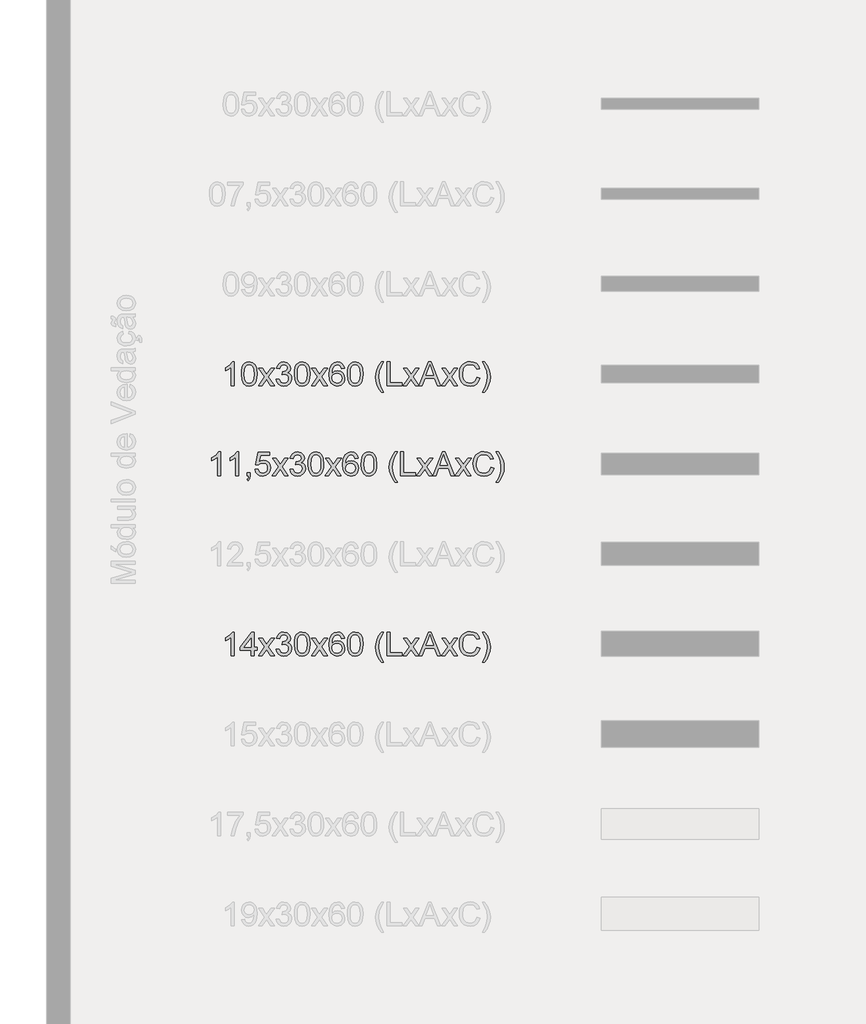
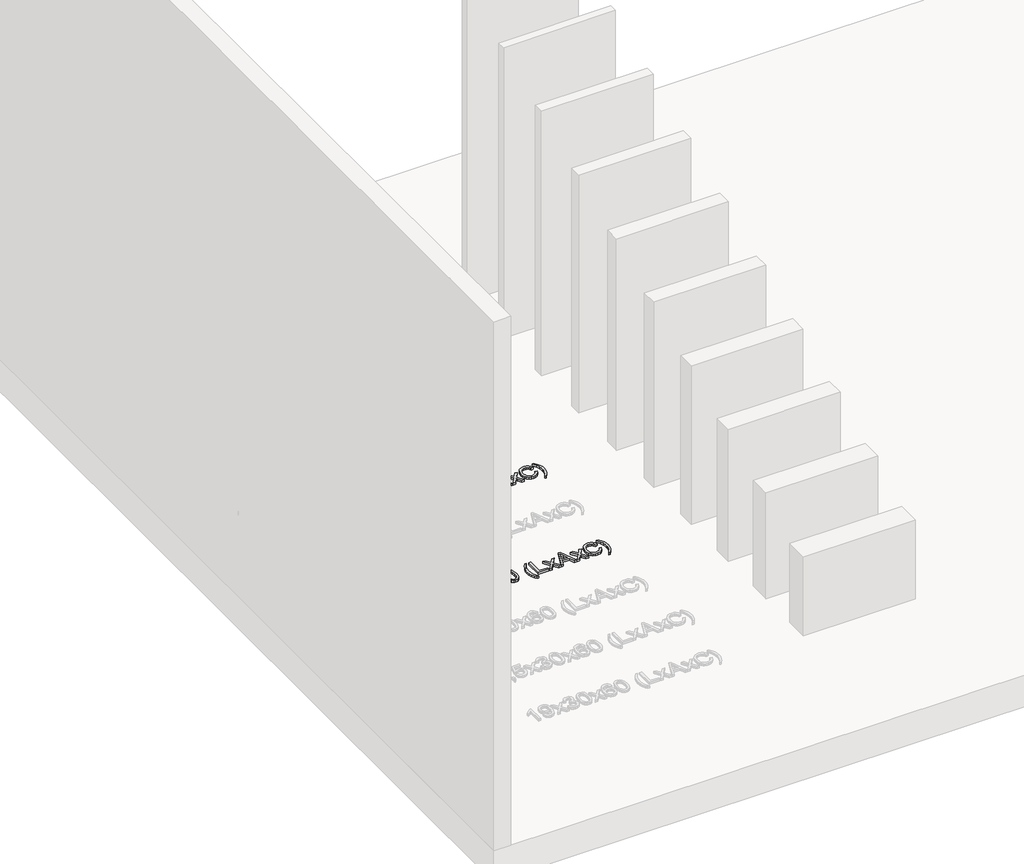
# One storey, part 14 of 26: 3 proxies.
"""IFC4 building model written with IfcOpenShell, lengths in millimetres."""

from ifc_helpers import new_model, si_unit, origin, origin_with_axes, place, context, project, spatial, polyline, outline, extrude, element, save

model = new_model("IFC4")

# Units and contexts
model_context = context("Model", 3, world=origin())
ifc_project = project(units=[si_unit("LENGTHUNIT", "METRE", prefix="MILLI")], contexts=[model_context])

# Site, building, storey
site = spatial("IfcSite", under=ifc_project)
building = spatial("IfcBuilding", under=site)
storey = spatial("IfcBuildingStorey", under=building, Name="Catálogo Celucon", Elevation=0.0)

# Proxies
placement = place(None, origin())
element("IfcBuildingElementProxy", 1, Name="Legenda Tabela de Módulos", ObjectType="Legenda Tabela de Módulos", at=placement, inside=storey, context=model_context, shape_type="SweptSolid", body=[
    extrude(outline(polyline([(8135.1639541, -1158.2429544), (8116.3283959, -1158.2429544), (8116.3283959, -1040.8150215), (8098.4861191, -1053.5253444), (8078.6572796, -1063.035094), (8078.6572796, -1045.2296054), (8106.2668233, -1027.6080579), (8123.0238482, -1007.5584891), (8135.1639541, -1007.5584891), (8135.1639541, -1158.2429544)])), origin_with_axes(), (0.0, 0.0, 1.0), 20.0),
    extrude(outline(polyline([(8179.8984047, -1084.1147323), (8181.2825607, -1059.995469), (8185.4350287, -1040.7598392), (8192.314422, -1026.1135373), (8201.8793539, -1015.7622576), (8214.1988022, -1009.6094313), (8229.3417448, -1007.5584891), (8251.3410881, -1012.4145315), (8266.5346145, -1026.4124414), (8275.3637824, -1048.7060903), (8278.785085, -1084.1147323), (8277.4147245, -1108.0960399), (8273.3036432, -1127.2856845), (8266.4656367, -1141.945782), (8256.9145004, -1152.3384483), (8244.5674609, -1158.5326614), (8229.3417448, -1160.5973991), (8209.7704227, -1157.0105497), (8194.9079901, -1146.2500013), (8183.650801, -1120.7649761), (8179.8984047, -1084.1147323)]), holes=[polyline([(8198.7339628, -1084.0779441), (8200.9412548, -1113.7062403), (8207.5631307, -1130.8541398), (8217.4223682, -1139.0349157), (8229.3417448, -1141.761841), (8241.2611215, -1139.0257186), (8251.1203589, -1130.8173516), (8257.7422349, -1113.6602551), (8259.9495268, -1084.0779441), (8257.8158112, -1055.1164341), (8251.4146645, -1037.8351773), (8241.5738212, -1029.2543298), (8229.1210156, -1026.3940473), (8217.3303977, -1028.914039), (8207.8574363, -1036.474014), (8201.0148312, -1054.8313255), (8198.7339628, -1084.0779441)])]), origin_with_axes(), (0.0, 0.0, 1.0), 20.0),
    extrude(outline(polyline([(8288.2028641, -1158.2429544), (8328.4491543, -1102.6191967), (8290.5573088, -1047.5840502), (8313.2188397, -1047.5840502), (8331.5025749, -1074.0715539), (8340.0374372, -1086.5795417), (8347.4318653, -1076.3524222), (8368.2539862, -1047.5840502), (8390.9155171, -1047.5840502), (8351.1106852, -1102.6191967), (8389.4439891, -1158.2429544), (8366.7824582, -1158.2429544), (8343.7162571, -1124.802481), (8339.4856142, -1118.6956399), (8310.864395, -1158.2429544), (8288.2028641, -1158.2429544)])), origin_with_axes(), (0.0, 0.0, 1.0), 20.0),
    extrude(outline(polyline([(8401.216213, -1118.2173933), (8420.0517711, -1115.8629485), (8424.2686185, -1127.6995517), (8430.4444375, -1135.6917881), (8438.8827308, -1140.2443278), (8449.8870009, -1141.761841), (8462.799659, -1139.6741107), (8472.769261, -1133.4109197), (8479.1428166, -1124.066717), (8481.2673351, -1112.7359516), (8479.1612107, -1101.9800017), (8472.8428374, -1093.2565999), (8463.2779056, -1087.4762541), (8451.4321053, -1085.5494721), (8438.2251417, -1087.6096113), (8440.3220691, -1068.7740531), (8443.3387014, -1068.9947823), (8464.7126453, -1063.586917), (8471.8311619, -1056.7259178), (8474.2040008, -1046.9586508), (8472.4841525, -1038.8238602), (8467.3246075, -1032.2249769), (8459.4519328, -1027.8517797), (8449.5926953, -1026.3940473), (8439.7150638, -1027.8655753), (8431.640054, -1032.2801592), (8425.744745, -1039.6377991), (8422.4062159, -1049.938495), (8403.5706577, -1047.5840502), (8409.1164788, -1030.6706755), (8418.9849133, -1018.043126), (8432.4861826, -1010.1796484), (8448.9305077, -1007.5584891), (8471.6472209, -1012.7272312), (8487.5397231, -1026.8538998), (8493.039559, -1045.8550048), (8487.8156346, -1063.219035), (8472.3645908, -1075.6902346), (8484.1552088, -1080.4543065), (8492.8924062, -1088.5661045), (8498.3002715, -1099.5841702), (8500.1028933, -1113.0670454), (8496.4976497, -1131.4243569), (8485.6819191, -1146.7650361), (8469.3571555, -1157.1393084), (8449.2248133, -1160.5973991), (8431.0146546, -1157.6451461), (8416.1890102, -1148.7883871), (8405.8791173, -1135.2411326), (8401.216213, -1118.2173933)])), origin_with_axes(), (0.0, 0.0, 1.0), 20.0),
    extrude(outline(polyline([(8516.5840067, -1084.1147323), (8517.9681627, -1059.995469), (8522.1206307, -1040.7598392), (8529.000024, -1026.1135373), (8538.5649559, -1015.7622576), (8550.8844042, -1009.6094313), (8566.0273468, -1007.5584891), (8588.0266901, -1012.4145315), (8603.2202165, -1026.4124414), (8612.0493844, -1048.7060903), (8615.470687, -1084.1147323), (8614.1003265, -1108.0960399), (8609.9892452, -1127.2856845), (8603.1512386, -1141.945782), (8593.6001023, -1152.3384483), (8581.2530629, -1158.5326614), (8566.0273468, -1160.5973991), (8546.4560247, -1157.0105497), (8531.5935921, -1146.2500013), (8520.336403, -1120.7649761), (8516.5840067, -1084.1147323)]), holes=[polyline([(8535.4195648, -1084.0779441), (8537.6268568, -1113.7062403), (8544.2487327, -1130.8541398), (8554.1079702, -1139.0349157), (8566.0273468, -1141.761841), (8577.9467235, -1139.0257186), (8587.8059609, -1130.8173516), (8594.4278368, -1113.6602551), (8596.6351288, -1084.0779441), (8594.5014132, -1055.1164341), (8588.1002665, -1037.8351773), (8578.2594231, -1029.2543298), (8565.8066176, -1026.3940473), (8554.0159997, -1028.914039), (8544.5430383, -1036.474014), (8537.7004332, -1054.8313255), (8535.4195648, -1084.0779441)])]), origin_with_axes(), (0.0, 0.0, 1.0), 20.0),
    extrude(outline(polyline([(8624.888466, -1158.2429544), (8665.1347563, -1102.6191967), (8627.2429108, -1047.5840502), (8649.9044417, -1047.5840502), (8668.1881769, -1074.0715539), (8676.7230392, -1086.5795417), (8684.1174673, -1076.3524222), (8704.9395882, -1047.5840502), (8727.6011191, -1047.5840502), (8687.7962872, -1102.6191967), (8726.1295911, -1158.2429544), (8703.4680602, -1158.2429544), (8680.4018591, -1124.802481), (8676.1712162, -1118.6956399), (8647.5499969, -1158.2429544), (8624.888466, -1158.2429544)])), origin_with_axes(), (0.0, 0.0, 1.0), 20.0),
    extrude(outline(polyline([(8834.4340505, -1047.5840502), (8815.5984923, -1049.938495), (8808.4615816, -1034.2299338), (8799.9175223, -1028.3530189), (8789.5892353, -1026.3940473), (8772.5930871, -1030.955784), (8759.7356114, -1048.0806909), (8755.8314637, -1062.1107905), (8754.3829283, -1081.649923), (8770.9928004, -1066.6219435), (8791.5757981, -1061.7107188), (8808.9766164, -1065.067642), (8823.5815316, -1075.1384117), (8833.4867544, -1090.5250761), (8836.7884953, -1109.8296838), (8835.2341938, -1123.3171574), (8830.5712895, -1135.8205468), (8823.1860585, -1146.4247453), (8813.4647768, -1154.2146465), (8801.8489028, -1159.001711), (8788.7798949, -1160.5973991), (8767.4105495, -1156.3667562), (8750.3914087, -1143.6748274), (8739.2583798, -1121.2708139), (8735.5473702, -1087.9039169), (8739.6676485, -1050.3891504), (8752.0284836, -1024.7385783), (8768.9050701, -1011.8535114), (8790.7664577, -1007.5584891), (8807.2935563, -1010.2164366), (8820.5281111, -1018.1902788), (8829.7987374, -1030.8546165), (8834.4340505, -1047.5840502)]), holes=[polyline([(8754.3829283, -1109.5353782), (8758.74233, -1125.8509447), (8770.3306128, -1137.6967449), (8787.3083669, -1141.761841), (8799.7381798, -1139.6557166), (8809.5100453, -1133.3373433), (8815.8422142, -1123.4045294), (8817.9529371, -1110.4550832), (8815.8698053, -1098.0252703), (8809.6204099, -1088.5477104), (8799.6829975, -1082.5466353), (8786.5358147, -1080.546277), (8774.1243959, -1082.5466353), (8763.7455251, -1088.5477104), (8756.7235775, -1097.795344), (8754.3829283, -1109.5353782)])]), origin_with_axes(), (0.0, 0.0, 1.0), 20.0),
    extrude(outline(polyline([(8853.2696086, -1084.1147323), (8854.6537646, -1059.995469), (8858.8062327, -1040.7598392), (8865.685626, -1026.1135373), (8875.2505579, -1015.7622576), (8887.5700062, -1009.6094313), (8902.7129488, -1007.5584891), (8924.7122921, -1012.4145315), (8939.9058185, -1026.4124414), (8948.7349864, -1048.7060903), (8952.1562889, -1084.1147323), (8950.7859285, -1108.0960399), (8946.6748472, -1127.2856845), (8939.8368406, -1141.945782), (8930.2857043, -1152.3384483), (8917.9386649, -1158.5326614), (8902.7129488, -1160.5973991), (8883.1416267, -1157.0105497), (8868.279194, -1146.2500013), (8857.022005, -1120.7649761), (8853.2696086, -1084.1147323)]), holes=[polyline([(8872.1051668, -1084.0779441), (8874.3124588, -1113.7062403), (8880.9343347, -1130.8541398), (8890.7935722, -1139.0349157), (8902.7129488, -1141.761841), (8914.6323254, -1139.0257186), (8924.4915629, -1130.8173516), (8931.1134388, -1113.6602551), (8933.3207308, -1084.0779441), (8931.1870152, -1055.1164341), (8924.7858685, -1037.8351773), (8914.9450251, -1029.2543298), (8902.4922196, -1026.3940473), (8890.7016017, -1028.914039), (8881.2286403, -1036.474014), (8874.3860352, -1054.8313255), (8872.1051668, -1084.0779441)])]), origin_with_axes(), (0.0, 0.0, 1.0), 20.0),
    extrude(outline(polyline([(9069.8785274, -1200.6229602), (9055.2828092, -1180.1411301), (9043.1335064, -1156.4403326), (9034.9389349, -1130.6701988), (9032.2074111, -1103.9803601), (9034.2491562, -1080.5738681), (9040.3743914, -1058.1790517), (9052.5328913, -1032.8135881), (9069.8785274, -1007.5584891), (9084.005196, -1007.5584891), (9066.3836484, -1037.393719), (9055.788647, -1066.3092438), (9051.0429692, -1104.0907247), (9053.1031084, -1128.2375791), (9059.2835259, -1152.3752365), (9069.5842218, -1176.5036969), (9084.005196, -1200.6229602), (9069.8785274, -1200.6229602)])), origin_with_axes(), (0.0, 0.0, 1.0), 20.0),
    extrude(outline(polyline([(9105.1951989, -1158.2429544), (9105.1951989, -1007.5584891), (9124.0307571, -1007.5584891), (9124.0307571, -1139.4073962), (9199.3729897, -1139.4073962), (9199.3729897, -1158.2429544), (9105.1951989, -1158.2429544)])), origin_with_axes(), (0.0, 0.0, 1.0), 20.0),
    extrude(outline(polyline([(9308.9650361, -1158.2429544), (9369.1137423, -1007.5584891), (9385.1533973, -1007.5584891), (9445.3021035, -1158.2429544), (9425.3996875, -1158.2429544), (9408.146022, -1111.154059), (9346.0843294, -1111.154059), (9328.867452, -1158.2429544), (9308.9650361, -1158.2429544)]), holes=[polyline([(9353.0005109, -1092.3185008), (9401.2666287, -1092.3185008), (9387.691783, -1055.2727839), (9377.1335698, -1026.3940473), (9367.7525789, -1052.0354224), (9353.0005109, -1092.3185008)])]), origin_with_axes(), (0.0, 0.0, 1.0), 20.0),
    extrude(outline(polyline([(9206.436324, -1158.2429544), (9246.6826143, -1102.6191967), (9208.7907688, -1047.5840502), (9231.4522997, -1047.5840502), (9249.7360348, -1074.0715539), (9258.2708971, -1086.5795417), (9265.6653252, -1076.3524222), (9286.4874462, -1047.5840502), (9309.1489771, -1047.5840502), (9269.3441452, -1102.6191967), (9307.6774491, -1158.2429544), (9285.0159182, -1158.2429544), (9261.9497171, -1124.802481), (9257.7190741, -1118.6956399), (9229.0978549, -1158.2429544), (9206.436324, -1158.2429544)])), origin_with_axes(), (0.0, 0.0, 1.0), 20.0),
    extrude(outline(polyline([(9451.29858, -1158.2429544), (9491.5448703, -1102.6191967), (9453.6530248, -1047.5840502), (9476.3145557, -1047.5840502), (9494.5982908, -1074.0715539), (9503.1331531, -1086.5795417), (9510.5275812, -1076.3524222), (9531.3497022, -1047.5840502), (9554.0112331, -1047.5840502), (9514.2064012, -1102.6191967), (9552.5397051, -1158.2429544), (9529.8781742, -1158.2429544), (9506.8119731, -1124.802481), (9502.5813301, -1118.6956399), (9473.9601109, -1158.2429544), (9451.29858, -1158.2429544)])), origin_with_axes(), (0.0, 0.0, 1.0), 20.0),
    extrude(outline(polyline([(9677.3252778, -1104.6793359), (9696.160836, -1109.5353782), (9687.4696239, -1131.4841377), (9673.8303989, -1147.5191942), (9655.9145457, -1157.3278479), (9634.393449, -1160.5973991), (9612.545857, -1158.1233927), (9595.1956224, -1150.7013735), (9581.8966883, -1138.5888588), (9572.2029977, -1122.043366), (9566.2846961, -1102.5916055), (9564.3119289, -1081.7602876), (9566.5422135, -1059.7885354), (9573.2330673, -1040.8150215), (9584.0350024, -1025.4421526), (9598.5985309, -1014.2723356), (9615.8705905, -1007.4711172), (9634.7981192, -1005.2040444), (9655.4500947, -1008.1379033), (9672.5244178, -1016.93948), (9685.4876596, -1031.0661486), (9693.8063912, -1049.9752832), (9674.9708331, -1054.4634435), (9668.4409277, -1040.7276495), (9659.5197893, -1031.3052719), (9648.0970533, -1025.8560199), (9634.0623552, -1024.0396025), (9617.8847445, -1026.0537564), (9604.5950074, -1032.0962182), (9594.5104422, -1041.5323914), (9587.9483471, -1053.7276795), (9583.1474871, -1081.7234994), (9584.5684313, -1099.1243177), (9588.8312639, -1114.1706913), (9596.0969333, -1126.2878046), (9606.5263879, -1134.9008418), (9619.0297772, -1140.0465912), (9632.5172508, -1141.761841), (9648.2396076, -1139.4257903), (9661.3408051, -1132.4176383), (9671.2322323, -1120.8109614), (9677.3252778, -1104.6793359)])), origin_with_axes(), (0.0, 0.0, 1.0), 20.0),
    extrude(outline(polyline([(9724.4141732, -1200.6229602), (9710.2875046, -1200.6229602), (9724.7084788, -1176.5036969), (9735.0091747, -1152.3752365), (9741.1895922, -1128.2375791), (9743.2497314, -1104.0907247), (9738.5040536, -1066.6403376), (9728.0194168, -1037.6880245), (9710.2875046, -1007.5584891), (9724.4141732, -1007.5584891), (9741.7598093, -1032.8135881), (9753.9183092, -1058.1790517), (9760.0435445, -1080.5738681), (9762.0852895, -1103.9803601), (9759.3399701, -1130.6701988), (9751.104012, -1156.4403326), (9738.9409135, -1180.1411301), (9724.4141732, -1200.6229602)])), origin_with_axes(), (0.0, 0.0, 1.0), 20.0),
])
element("IfcBuildingElementProxy", 2, Name="Legenda Tabela de Módulos", ObjectType="Legenda Tabela de Módulos", at=placement, inside=storey, context=model_context, shape_type="SweptSolid", body=[
    extrude(outline(polyline([(8048.0494976, -1729.6715258), (8029.2139394, -1729.6715258), (8029.2139394, -1612.2435929), (8011.3716627, -1624.9539159), (7991.5428231, -1634.4636654), (7991.5428231, -1616.6581769), (8019.1523669, -1599.0366293), (8035.9093918, -1578.9870606), (8048.0494976, -1578.9870606), (8048.0494976, -1729.6715258)])), origin_with_axes(), (0.0, 0.0, 1.0), 20.0),
    extrude(outline(polyline([(8163.4172913, -1729.6715258), (8144.5817331, -1729.6715258), (8144.5817331, -1612.2435929), (8126.7394564, -1624.9539159), (8106.9106168, -1634.4636654), (8106.9106168, -1616.6581769), (8134.5201606, -1599.0366293), (8151.2771854, -1578.9870606), (8163.4172913, -1578.9870606), (8163.4172913, -1729.6715258)])), origin_with_axes(), (0.0, 0.0, 1.0), 20.0),
    extrude(outline(polyline([(8217.569521, -1729.6715258), (8217.569521, -1710.8359676), (8236.4050791, -1710.8359676), (8236.4050791, -1729.6715258), (8233.0205648, -1748.9301482), (8222.2784105, -1760.2793078), (8217.569521, -1753.2159735), (8224.4857025, -1745.0857814), (8226.9505119, -1729.6715258), (8217.569521, -1729.6715258)])), origin_with_axes(), (0.0, 0.0, 1.0), 20.0),
    extrude(outline(polyline([(8267.0128611, -1689.6459647), (8285.8484193, -1687.29152), (8289.30651, -1698.5992928), (8295.3397748, -1706.6972952), (8303.9206223, -1711.5671331), (8315.0214615, -1713.1904124), (8328.5227307, -1710.9325367), (8338.6394856, -1704.1589094), (8344.9578589, -1693.6512799), (8347.0639833, -1680.1913974), (8345.0912161, -1667.5178627), (8339.1729145, -1657.8241721), (8329.2630932, -1651.6713458), (8315.3157671, -1649.6204036), (8298.7794714, -1652.8945534), (8288.2028641, -1661.3926275), (8269.3673059, -1659.0381827), (8285.8484193, -1581.3415053), (8358.8362071, -1581.3415053), (8358.8362071, -1600.1770635), (8301.0787339, -1600.1770635), (8293.0221182, -1641.6741525), (8306.4774022, -1633.5071723), (8320.5764796, -1630.7848455), (8338.1750346, -1634.1601628), (8352.7845483, -1644.2861147), (8362.6207932, -1659.7187644), (8365.8995414, -1679.0141751), (8362.9472884, -1697.8497332), (8354.0905294, -1713.9629646), (8337.1311694, -1727.5102191), (8314.9478851, -1732.0259706), (8296.4480193, -1729.1243013), (8281.7097468, -1720.4192936), (8271.6067875, -1706.9226229), (8267.0128611, -1689.6459647)])), origin_with_axes(), (0.0, 0.0, 1.0), 20.0),
    extrude(outline(polyline([(8375.3173205, -1729.6715258), (8415.5636108, -1674.0477681), (8377.6717653, -1619.0126216), (8400.3332962, -1619.0126216), (8418.6170313, -1645.5001253), (8427.1518936, -1658.0081131), (8434.5463217, -1647.7809937), (8455.3684427, -1619.0126216), (8478.0299736, -1619.0126216), (8438.2251417, -1674.0477681), (8476.5584456, -1729.6715258), (8453.8969147, -1729.6715258), (8430.8307136, -1696.2310524), (8426.6000706, -1690.1242113), (8397.9788514, -1729.6715258), (8375.3173205, -1729.6715258)])), origin_with_axes(), (0.0, 0.0, 1.0), 20.0),
    extrude(outline(polyline([(8488.3306694, -1689.6459647), (8507.1662276, -1687.29152), (8511.3830749, -1699.1281231), (8517.5588939, -1707.1203595), (8525.9971872, -1711.6728992), (8537.0014574, -1713.1904124), (8549.9141154, -1711.1026821), (8559.8837175, -1704.8394911), (8566.2572731, -1695.4952884), (8568.3817916, -1684.164523), (8566.2756672, -1673.4085732), (8559.9572939, -1664.6851713), (8550.392362, -1658.9048255), (8538.5465618, -1656.9780435), (8525.3395981, -1659.0381827), (8527.4365255, -1640.2026246), (8530.4531579, -1640.4233538), (8551.8271018, -1635.0154884), (8558.9456184, -1628.1544892), (8561.3184573, -1618.3872223), (8559.5986089, -1610.2524316), (8554.439064, -1603.6535483), (8546.5663893, -1599.2803511), (8536.7071518, -1597.8226187), (8526.8295202, -1599.2941467), (8518.7545104, -1603.7087306), (8512.8592015, -1611.0663705), (8509.5206723, -1621.3670664), (8490.6851142, -1619.0126216), (8496.2309353, -1602.0992469), (8506.0993698, -1589.4716974), (8519.600639, -1581.6082198), (8536.0449642, -1578.9870606), (8558.7616774, -1584.1558026), (8574.6541796, -1598.2824712), (8580.1540154, -1617.2835763), (8574.9300911, -1634.6476064), (8559.4790473, -1647.1188061), (8571.2696652, -1651.8828779), (8580.0068626, -1659.9946759), (8585.414728, -1671.0127417), (8587.2173497, -1684.4956168), (8583.6121062, -1702.8529283), (8572.7963755, -1718.1936075), (8556.471612, -1728.5678798), (8536.3392698, -1732.0259706), (8518.129111, -1729.0737176), (8503.3034666, -1720.2169585), (8492.9935737, -1706.669704), (8488.3306694, -1689.6459647)])), origin_with_axes(), (0.0, 0.0, 1.0), 20.0),
    extrude(outline(polyline([(8603.6984631, -1655.5433038), (8605.0826191, -1631.4240405), (8609.2350871, -1612.1884106), (8616.1144805, -1597.5421087), (8625.6794123, -1587.1908291), (8637.9988606, -1581.0380027), (8653.1418033, -1578.9870606), (8675.1411466, -1583.8431029), (8690.334673, -1597.8410128), (8699.1638409, -1620.1346617), (8702.5851434, -1655.5433038), (8701.214783, -1679.5246113), (8697.1037017, -1698.7142559), (8690.2656951, -1713.3743534), (8680.7145588, -1723.7670198), (8668.3675193, -1729.9612329), (8653.1418033, -1732.0259706), (8633.5704811, -1728.4391211), (8618.7080485, -1717.6785728), (8607.4508595, -1692.1935475), (8603.6984631, -1655.5433038)]), holes=[polyline([(8622.5340213, -1655.5065156), (8624.7413132, -1685.1348118), (8631.3631892, -1702.2827113), (8641.2224266, -1710.4634871), (8653.1418033, -1713.1904124), (8665.0611799, -1710.4542901), (8674.9204174, -1702.2459231), (8681.5422933, -1685.0888265), (8683.7495853, -1655.5065156), (8681.6158697, -1626.5450055), (8675.214723, -1609.2637488), (8665.3738796, -1600.6829012), (8652.9210741, -1597.8226187), (8641.1304561, -1600.3426104), (8631.6574947, -1607.9025854), (8624.8148896, -1626.259897), (8622.5340213, -1655.5065156)])]), origin_with_axes(), (0.0, 0.0, 1.0), 20.0),
    extrude(outline(polyline([(8712.0029225, -1729.6715258), (8752.2492128, -1674.0477681), (8714.3573673, -1619.0126216), (8737.0188982, -1619.0126216), (8755.3026333, -1645.5001253), (8763.8374956, -1658.0081131), (8771.2319237, -1647.7809937), (8792.0540446, -1619.0126216), (8814.7155755, -1619.0126216), (8774.9107437, -1674.0477681), (8813.2440476, -1729.6715258), (8790.5825167, -1729.6715258), (8767.5163156, -1696.2310524), (8763.2856726, -1690.1242113), (8734.6644534, -1729.6715258), (8712.0029225, -1729.6715258)])), origin_with_axes(), (0.0, 0.0, 1.0), 20.0),
    extrude(outline(polyline([(8921.5485069, -1619.0126216), (8902.7129488, -1621.3670664), (8895.5760381, -1605.6585052), (8887.0319787, -1599.7815903), (8876.7036917, -1597.8226187), (8859.7075436, -1602.3843555), (8846.8500678, -1619.5092623), (8842.9459202, -1633.5393619), (8841.4973848, -1653.0784944), (8858.1072569, -1638.0505149), (8878.6902545, -1633.1392903), (8896.0910729, -1636.4962135), (8910.6959881, -1646.5669831), (8920.6012108, -1661.9536475), (8923.9029517, -1681.2582552), (8922.3486503, -1694.7457289), (8917.685746, -1707.2491182), (8910.3005149, -1717.8533167), (8900.5792332, -1725.6432179), (8888.9633592, -1730.4302824), (8875.8943513, -1732.0259706), (8854.525006, -1727.7953276), (8837.5058651, -1715.1033988), (8826.3728363, -1692.6993853), (8822.6618266, -1659.3324883), (8826.782105, -1621.8177219), (8839.14294, -1596.1671497), (8856.0195266, -1583.2820829), (8877.8809141, -1578.9870606), (8894.4080128, -1581.645008), (8907.6425675, -1589.6188502), (8916.9131938, -1602.2831879), (8921.5485069, -1619.0126216)]), holes=[polyline([(8841.4973848, -1680.9639496), (8845.8567864, -1697.2795161), (8857.4450693, -1709.1253164), (8874.4228234, -1713.1904124), (8886.8526363, -1711.084288), (8896.6245018, -1704.7659147), (8902.9566706, -1694.8331009), (8905.0673936, -1681.8836546), (8902.9842618, -1669.4538417), (8896.7348664, -1659.9762818), (8886.797454, -1653.9752068), (8873.6502712, -1651.9748484), (8861.2388524, -1653.9752068), (8850.8599816, -1659.9762818), (8843.838034, -1669.2239155), (8841.4973848, -1680.9639496)])]), origin_with_axes(), (0.0, 0.0, 1.0), 20.0),
    extrude(outline(polyline([(8940.3840651, -1655.5433038), (8941.7682211, -1631.4240405), (8945.9206891, -1612.1884106), (8952.8000824, -1597.5421087), (8962.3650143, -1587.1908291), (8974.6844626, -1581.0380027), (8989.8274053, -1578.9870606), (9011.8267486, -1583.8431029), (9027.020275, -1597.8410128), (9035.8494428, -1620.1346617), (9039.2707454, -1655.5433038), (9037.900385, -1679.5246113), (9033.7893037, -1698.7142559), (9026.9512971, -1713.3743534), (9017.4001608, -1723.7670198), (9005.0531213, -1729.9612329), (8989.8274053, -1732.0259706), (8970.2560831, -1728.4391211), (8955.3936505, -1717.6785728), (8944.1364615, -1692.1935475), (8940.3840651, -1655.5433038)]), holes=[polyline([(8959.2196233, -1655.5065156), (8961.4269152, -1685.1348118), (8968.0487911, -1702.2827113), (8977.9080286, -1710.4634871), (8989.8274053, -1713.1904124), (9001.7467819, -1710.4542901), (9011.6060194, -1702.2459231), (9018.2278953, -1685.0888265), (9020.4351873, -1655.5065156), (9018.3014717, -1626.5450055), (9011.900325, -1609.2637488), (9002.0594816, -1600.6829012), (8989.6066761, -1597.8226187), (8977.8160581, -1600.3426104), (8968.3430967, -1607.9025854), (8961.5004916, -1626.259897), (8959.2196233, -1655.5065156)])]), origin_with_axes(), (0.0, 0.0, 1.0), 20.0),
    extrude(outline(polyline([(9156.9929839, -1772.0515316), (9142.3972657, -1751.5697016), (9130.2479628, -1727.868904), (9122.0533914, -1702.0987703), (9119.3218676, -1675.4089315), (9121.3636126, -1652.0024396), (9127.4888478, -1629.6076231), (9139.6473478, -1604.2421595), (9156.9929839, -1578.9870606), (9171.1196525, -1578.9870606), (9153.4981049, -1608.8222904), (9142.9031034, -1637.7378152), (9138.1574257, -1675.5192961), (9140.2175649, -1699.6661506), (9146.3979824, -1723.803808), (9156.6986783, -1747.9322683), (9171.1196525, -1772.0515316), (9156.9929839, -1772.0515316)])), origin_with_axes(), (0.0, 0.0, 1.0), 20.0),
    extrude(outline(polyline([(9192.3096554, -1729.6715258), (9192.3096554, -1578.9870606), (9211.1452136, -1578.9870606), (9211.1452136, -1710.8359676), (9286.4874462, -1710.8359676), (9286.4874462, -1729.6715258), (9192.3096554, -1729.6715258)])), origin_with_axes(), (0.0, 0.0, 1.0), 20.0),
    extrude(outline(polyline([(9396.0794925, -1729.6715258), (9456.2281987, -1578.9870606), (9472.2678537, -1578.9870606), (9532.4165599, -1729.6715258), (9512.514144, -1729.6715258), (9495.2604784, -1682.5826304), (9433.1987858, -1682.5826304), (9415.9819085, -1729.6715258), (9396.0794925, -1729.6715258)]), holes=[polyline([(9440.1149673, -1663.7470723), (9488.3810851, -1663.7470723), (9474.8062395, -1626.7013553), (9464.2480262, -1597.8226187), (9454.8670354, -1623.4639938), (9440.1149673, -1663.7470723)])]), origin_with_axes(), (0.0, 0.0, 1.0), 20.0),
    extrude(outline(polyline([(9293.5507805, -1729.6715258), (9333.7970707, -1674.0477681), (9295.9052252, -1619.0126216), (9318.5667561, -1619.0126216), (9336.8504913, -1645.5001253), (9345.3853536, -1658.0081131), (9352.7797817, -1647.7809937), (9373.6019026, -1619.0126216), (9396.2634335, -1619.0126216), (9356.4586016, -1674.0477681), (9394.7919055, -1729.6715258), (9372.1303746, -1729.6715258), (9349.0641735, -1696.2310524), (9344.8335306, -1690.1242113), (9316.2123114, -1729.6715258), (9293.5507805, -1729.6715258)])), origin_with_axes(), (0.0, 0.0, 1.0), 20.0),
    extrude(outline(polyline([(9538.4130365, -1729.6715258), (9578.6593267, -1674.0477681), (9540.7674812, -1619.0126216), (9563.4290121, -1619.0126216), (9581.7127473, -1645.5001253), (9590.2476096, -1658.0081131), (9597.6420377, -1647.7809937), (9618.4641586, -1619.0126216), (9641.1256895, -1619.0126216), (9601.3208576, -1674.0477681), (9639.6541615, -1729.6715258), (9616.9926306, -1729.6715258), (9593.9264295, -1696.2310524), (9589.6957866, -1690.1242113), (9561.0745674, -1729.6715258), (9538.4130365, -1729.6715258)])), origin_with_axes(), (0.0, 0.0, 1.0), 20.0),
    extrude(outline(polyline([(9764.4397343, -1676.1079073), (9783.2752924, -1680.9639496), (9774.5840803, -1702.9127092), (9760.9448553, -1718.9477656), (9743.0290022, -1728.7564193), (9721.5079055, -1732.0259706), (9699.6603135, -1729.5519641), (9682.3100789, -1722.1299449), (9669.0111447, -1710.0174302), (9659.3174542, -1693.4719375), (9653.3991526, -1674.020177), (9651.4263854, -1653.188859), (9653.65667, -1631.2171068), (9660.3475238, -1612.2435929), (9671.1494588, -1596.8707241), (9685.7129873, -1585.700907), (9702.985047, -1578.8996886), (9721.9125757, -1576.6326158), (9742.5645512, -1579.5664747), (9759.6388743, -1588.3680514), (9772.6021161, -1602.4947201), (9780.9208477, -1621.4038546), (9762.0852895, -1625.892015), (9755.5553841, -1612.156221), (9746.6342457, -1602.7338434), (9735.2115098, -1597.2845913), (9721.1768117, -1595.468174), (9704.9992009, -1597.4823279), (9691.7094638, -1603.5247896), (9681.6248987, -1612.9609628), (9675.0628036, -1625.156251), (9670.2619435, -1653.1520708), (9671.6828877, -1670.5528892), (9675.9457204, -1685.5992628), (9683.2113898, -1697.716376), (9693.6408443, -1706.3294132), (9706.1442336, -1711.4751626), (9719.6317073, -1713.1904124), (9735.3540641, -1710.8543617), (9748.4552616, -1703.8462097), (9758.3466888, -1692.2395328), (9764.4397343, -1676.1079073)])), origin_with_axes(), (0.0, 0.0, 1.0), 20.0),
    extrude(outline(polyline([(9811.5286297, -1772.0515316), (9797.4019611, -1772.0515316), (9811.8229353, -1747.9322683), (9822.1236311, -1723.803808), (9828.3040487, -1699.6661506), (9830.3641878, -1675.5192961), (9825.6185101, -1638.068909), (9815.1338732, -1609.116596), (9797.4019611, -1578.9870606), (9811.5286297, -1578.9870606), (9828.8742658, -1604.2421595), (9841.0327657, -1629.6076231), (9847.1580009, -1652.0024396), (9849.199746, -1675.4089315), (9846.4544266, -1702.0987703), (9838.2184684, -1727.868904), (9826.05537, -1751.5697016), (9811.5286297, -1772.0515316)])), origin_with_axes(), (0.0, 0.0, 1.0), 20.0),
])
element("IfcBuildingElementProxy", 3, Name="Legenda Tabela de Módulos", ObjectType="Legenda Tabela de Módulos", at=placement, inside=storey, context=model_context, shape_type="SweptSolid", body=[
    extrude(outline(polyline([(8135.1639541, -2872.5286687), (8116.3283959, -2872.5286687), (8116.3283959, -2755.1007358), (8098.4861191, -2767.8110587), (8078.6572796, -2777.3208083), (8078.6572796, -2759.5153197), (8106.2668233, -2741.8937722), (8123.0238482, -2721.8442034), (8135.1639541, -2721.8442034), (8135.1639541, -2872.5286687)])), origin_with_axes(), (0.0, 0.0, 1.0), 20.0),
    extrude(outline(polyline([(8241.1139687, -2872.5286687), (8241.1139687, -2837.2119971), (8172.8350704, -2837.2119971), (8172.8350704, -2818.376439), (8245.8228582, -2724.1986482), (8259.9495268, -2724.1986482), (8259.9495268, -2818.376439), (8278.785085, -2818.376439), (8278.785085, -2837.2119971), (8259.9495268, -2837.2119971), (8259.9495268, -2872.5286687), (8241.1139687, -2872.5286687)]), holes=[polyline([(8241.1139687, -2818.376439), (8241.1139687, -2760.1775073), (8196.0116361, -2818.376439), (8241.1139687, -2818.376439)])]), origin_with_axes(), (0.0, 0.0, 1.0), 20.0),
    extrude(outline(polyline([(8288.2028641, -2872.5286687), (8328.4491543, -2816.904911), (8290.5573088, -2761.8697645), (8313.2188397, -2761.8697645), (8331.5025749, -2788.3572682), (8340.0374372, -2800.865256), (8347.4318653, -2790.6381365), (8368.2539862, -2761.8697645), (8390.9155171, -2761.8697645), (8351.1106852, -2816.904911), (8389.4439891, -2872.5286687), (8366.7824582, -2872.5286687), (8343.7162571, -2839.0881953), (8339.4856142, -2832.9813542), (8310.864395, -2872.5286687), (8288.2028641, -2872.5286687)])), origin_with_axes(), (0.0, 0.0, 1.0), 20.0),
    extrude(outline(polyline([(8401.216213, -2832.5031076), (8420.0517711, -2830.1486628), (8424.2686185, -2841.985266), (8430.4444375, -2849.9775023), (8438.8827308, -2854.530042), (8449.8870009, -2856.0475553), (8462.799659, -2853.9598249), (8472.769261, -2847.696634), (8479.1428166, -2838.3524313), (8481.2673351, -2827.0216658), (8479.1612107, -2816.265716), (8472.8428374, -2807.5423142), (8463.2779056, -2801.7619684), (8451.4321053, -2799.8351864), (8438.2251417, -2801.8953256), (8440.3220691, -2783.0597674), (8443.3387014, -2783.2804966), (8464.7126453, -2777.8726313), (8471.8311619, -2771.0116321), (8474.2040008, -2761.2443651), (8472.4841525, -2753.1095745), (8467.3246075, -2746.5106912), (8459.4519328, -2742.137494), (8449.5926953, -2740.6797616), (8439.7150638, -2742.1512896), (8431.640054, -2746.5658735), (8425.744745, -2753.9235134), (8422.4062159, -2764.2242093), (8403.5706577, -2761.8697645), (8409.1164788, -2744.9563898), (8418.9849133, -2732.3288403), (8432.4861826, -2724.4653626), (8448.9305077, -2721.8442034), (8471.6472209, -2727.0129455), (8487.5397231, -2741.1396141), (8493.039559, -2760.1407191), (8487.8156346, -2777.5047493), (8472.3645908, -2789.9759489), (8484.1552088, -2794.7400208), (8492.8924062, -2802.8518188), (8498.3002715, -2813.8698845), (8500.1028933, -2827.3527596), (8496.4976497, -2845.7100712), (8485.6819191, -2861.0507504), (8469.3571555, -2871.4250227), (8449.2248133, -2874.8831134), (8431.0146546, -2871.9308604), (8416.1890102, -2863.0741014), (8405.8791173, -2849.5268469), (8401.216213, -2832.5031076)])), origin_with_axes(), (0.0, 0.0, 1.0), 20.0),
    extrude(outline(polyline([(8516.5840067, -2798.4004466), (8517.9681627, -2774.2811833), (8522.1206307, -2755.0455535), (8529.000024, -2740.3992516), (8538.5649559, -2730.0479719), (8550.8844042, -2723.8951456), (8566.0273468, -2721.8442034), (8588.0266901, -2726.7002458), (8603.2202165, -2740.6981557), (8612.0493844, -2762.9918046), (8615.470687, -2798.4004466), (8614.1003265, -2822.3817542), (8609.9892452, -2841.5713988), (8603.1512386, -2856.2314963), (8593.6001023, -2866.6241626), (8581.2530629, -2872.8183757), (8566.0273468, -2874.8831134), (8546.4560247, -2871.296264), (8531.5935921, -2860.5357156), (8520.336403, -2835.0506904), (8516.5840067, -2798.4004466)]), holes=[polyline([(8535.4195648, -2798.3636584), (8537.6268568, -2827.9919546), (8544.2487327, -2845.1398541), (8554.1079702, -2853.32063), (8566.0273468, -2856.0475553), (8577.9467235, -2853.3114329), (8587.8059609, -2845.1030659), (8594.4278368, -2827.9459694), (8596.6351288, -2798.3636584), (8594.5014132, -2769.4021484), (8588.1002665, -2752.1208916), (8578.2594231, -2743.5400441), (8565.8066176, -2740.6797616), (8554.0159997, -2743.1997532), (8544.5430383, -2750.7597282), (8537.7004332, -2769.1170398), (8535.4195648, -2798.3636584)])]), origin_with_axes(), (0.0, 0.0, 1.0), 20.0),
    extrude(outline(polyline([(8624.888466, -2872.5286687), (8665.1347563, -2816.904911), (8627.2429108, -2761.8697645), (8649.9044417, -2761.8697645), (8668.1881769, -2788.3572682), (8676.7230392, -2800.865256), (8684.1174673, -2790.6381365), (8704.9395882, -2761.8697645), (8727.6011191, -2761.8697645), (8687.7962872, -2816.904911), (8726.1295911, -2872.5286687), (8703.4680602, -2872.5286687), (8680.4018591, -2839.0881953), (8676.1712162, -2832.9813542), (8647.5499969, -2872.5286687), (8624.888466, -2872.5286687)])), origin_with_axes(), (0.0, 0.0, 1.0), 20.0),
    extrude(outline(polyline([(8834.4340505, -2761.8697645), (8815.5984923, -2764.2242093), (8808.4615816, -2748.5156481), (8799.9175223, -2742.6387332), (8789.5892353, -2740.6797616), (8772.5930871, -2745.2414983), (8759.7356114, -2762.3664052), (8755.8314637, -2776.3965048), (8754.3829283, -2795.9356373), (8770.9928004, -2780.9076578), (8791.5757981, -2775.9964331), (8808.9766164, -2779.3533563), (8823.5815316, -2789.4241259), (8833.4867544, -2804.8107904), (8836.7884953, -2824.1153981), (8835.2341938, -2837.6028717), (8830.5712895, -2850.106261), (8823.1860585, -2860.7104596), (8813.4647768, -2868.5003608), (8801.8489028, -2873.2874253), (8788.7798949, -2874.8831134), (8767.4105495, -2870.6524705), (8750.3914087, -2857.9605416), (8739.2583798, -2835.5565281), (8735.5473702, -2802.1896312), (8739.6676485, -2764.6748647), (8752.0284836, -2739.0242926), (8768.9050701, -2726.1392257), (8790.7664577, -2721.8442034), (8807.2935563, -2724.5021508), (8820.5281111, -2732.4759931), (8829.7987374, -2745.1403308), (8834.4340505, -2761.8697645)]), holes=[polyline([(8754.3829283, -2823.8210925), (8758.74233, -2840.136659), (8770.3306128, -2851.9824592), (8787.3083669, -2856.0475553), (8799.7381798, -2853.9414308), (8809.5100453, -2847.6230576), (8815.8422142, -2837.6902437), (8817.9529371, -2824.7407975), (8815.8698053, -2812.3109846), (8809.6204099, -2802.8334247), (8799.6829975, -2796.8323496), (8786.5358147, -2794.8319913), (8774.1243959, -2796.8323496), (8763.7455251, -2802.8334247), (8756.7235775, -2812.0810583), (8754.3829283, -2823.8210925)])]), origin_with_axes(), (0.0, 0.0, 1.0), 20.0),
    extrude(outline(polyline([(8853.2696086, -2798.4004466), (8854.6537646, -2774.2811833), (8858.8062327, -2755.0455535), (8865.685626, -2740.3992516), (8875.2505579, -2730.0479719), (8887.5700062, -2723.8951456), (8902.7129488, -2721.8442034), (8924.7122921, -2726.7002458), (8939.9058185, -2740.6981557), (8948.7349864, -2762.9918046), (8952.1562889, -2798.4004466), (8950.7859285, -2822.3817542), (8946.6748472, -2841.5713988), (8939.8368406, -2856.2314963), (8930.2857043, -2866.6241626), (8917.9386649, -2872.8183757), (8902.7129488, -2874.8831134), (8883.1416267, -2871.296264), (8868.279194, -2860.5357156), (8857.022005, -2835.0506904), (8853.2696086, -2798.4004466)]), holes=[polyline([(8872.1051668, -2798.3636584), (8874.3124588, -2827.9919546), (8880.9343347, -2845.1398541), (8890.7935722, -2853.32063), (8902.7129488, -2856.0475553), (8914.6323254, -2853.3114329), (8924.4915629, -2845.1030659), (8931.1134388, -2827.9459694), (8933.3207308, -2798.3636584), (8931.1870152, -2769.4021484), (8924.7858685, -2752.1208916), (8914.9450251, -2743.5400441), (8902.4922196, -2740.6797616), (8890.7016017, -2743.1997532), (8881.2286403, -2750.7597282), (8874.3860352, -2769.1170398), (8872.1051668, -2798.3636584)])]), origin_with_axes(), (0.0, 0.0, 1.0), 20.0),
    extrude(outline(polyline([(9069.8785274, -2914.9086745), (9055.2828092, -2894.4268444), (9043.1335064, -2870.7260469), (9034.9389349, -2844.9559131), (9032.2074111, -2818.2660744), (9034.2491562, -2794.8595824), (9040.3743914, -2772.464766), (9052.5328913, -2747.0993024), (9069.8785274, -2721.8442034), (9084.005196, -2721.8442034), (9066.3836484, -2751.6794332), (9055.788647, -2780.5949581), (9051.0429692, -2818.376439), (9053.1031084, -2842.5232934), (9059.2835259, -2866.6609508), (9069.5842218, -2890.7894112), (9084.005196, -2914.9086745), (9069.8785274, -2914.9086745)])), origin_with_axes(), (0.0, 0.0, 1.0), 20.0),
    extrude(outline(polyline([(9105.1951989, -2872.5286687), (9105.1951989, -2721.8442034), (9124.0307571, -2721.8442034), (9124.0307571, -2853.6931105), (9199.3729897, -2853.6931105), (9199.3729897, -2872.5286687), (9105.1951989, -2872.5286687)])), origin_with_axes(), (0.0, 0.0, 1.0), 20.0),
    extrude(outline(polyline([(9308.9650361, -2872.5286687), (9369.1137423, -2721.8442034), (9385.1533973, -2721.8442034), (9445.3021035, -2872.5286687), (9425.3996875, -2872.5286687), (9408.146022, -2825.4397733), (9346.0843294, -2825.4397733), (9328.867452, -2872.5286687), (9308.9650361, -2872.5286687)]), holes=[polyline([(9353.0005109, -2806.6042151), (9401.2666287, -2806.6042151), (9387.691783, -2769.5584982), (9377.1335698, -2740.6797616), (9367.7525789, -2766.3211366), (9353.0005109, -2806.6042151)])]), origin_with_axes(), (0.0, 0.0, 1.0), 20.0),
    extrude(outline(polyline([(9206.436324, -2872.5286687), (9246.6826143, -2816.904911), (9208.7907688, -2761.8697645), (9231.4522997, -2761.8697645), (9249.7360348, -2788.3572682), (9258.2708971, -2800.865256), (9265.6653252, -2790.6381365), (9286.4874462, -2761.8697645), (9309.1489771, -2761.8697645), (9269.3441452, -2816.904911), (9307.6774491, -2872.5286687), (9285.0159182, -2872.5286687), (9261.9497171, -2839.0881953), (9257.7190741, -2832.9813542), (9229.0978549, -2872.5286687), (9206.436324, -2872.5286687)])), origin_with_axes(), (0.0, 0.0, 1.0), 20.0),
    extrude(outline(polyline([(9451.29858, -2872.5286687), (9491.5448703, -2816.904911), (9453.6530248, -2761.8697645), (9476.3145557, -2761.8697645), (9494.5982908, -2788.3572682), (9503.1331531, -2800.865256), (9510.5275812, -2790.6381365), (9531.3497022, -2761.8697645), (9554.0112331, -2761.8697645), (9514.2064012, -2816.904911), (9552.5397051, -2872.5286687), (9529.8781742, -2872.5286687), (9506.8119731, -2839.0881953), (9502.5813301, -2832.9813542), (9473.9601109, -2872.5286687), (9451.29858, -2872.5286687)])), origin_with_axes(), (0.0, 0.0, 1.0), 20.0),
    extrude(outline(polyline([(9677.3252778, -2818.9650502), (9696.160836, -2823.8210925), (9687.4696239, -2845.769852), (9673.8303989, -2861.8049085), (9655.9145457, -2871.6135622), (9634.393449, -2874.8831134), (9612.545857, -2872.409107), (9595.1956224, -2864.9870878), (9581.8966883, -2852.8745731), (9572.2029977, -2836.3290803), (9566.2846961, -2816.8773198), (9564.3119289, -2796.0460019), (9566.5422135, -2774.0742497), (9573.2330673, -2755.1007358), (9584.0350024, -2739.7278669), (9598.5985309, -2728.5580498), (9615.8705905, -2721.7568315), (9634.7981192, -2719.4897587), (9655.4500947, -2722.4236176), (9672.5244178, -2731.2251943), (9685.4876596, -2745.3518629), (9693.8063912, -2764.2609975), (9674.9708331, -2768.7491578), (9668.4409277, -2755.0133638), (9659.5197893, -2745.5909862), (9648.0970533, -2740.1417342), (9634.0623552, -2738.3253168), (9617.8847445, -2740.3394707), (9604.5950074, -2746.3819325), (9594.5104422, -2755.8181057), (9587.9483471, -2768.0133938), (9583.1474871, -2796.0092137), (9584.5684313, -2813.410032), (9588.8312639, -2828.4564056), (9596.0969333, -2840.5735188), (9606.5263879, -2849.1865561), (9619.0297772, -2854.3323055), (9632.5172508, -2856.0475553), (9648.2396076, -2853.7115046), (9661.3408051, -2846.7033526), (9671.2322323, -2835.0966756), (9677.3252778, -2818.9650502)])), origin_with_axes(), (0.0, 0.0, 1.0), 20.0),
    extrude(outline(polyline([(9724.4141732, -2914.9086745), (9710.2875046, -2914.9086745), (9724.7084788, -2890.7894112), (9735.0091747, -2866.6609508), (9741.1895922, -2842.5232934), (9743.2497314, -2818.376439), (9738.5040536, -2780.9260519), (9728.0194168, -2751.9737388), (9710.2875046, -2721.8442034), (9724.4141732, -2721.8442034), (9741.7598093, -2747.0993024), (9753.9183092, -2772.464766), (9760.0435445, -2794.8595824), (9762.0852895, -2818.2660744), (9759.3399701, -2844.9559131), (9751.104012, -2870.7260469), (9738.9409135, -2894.4268444), (9724.4141732, -2914.9086745)])), origin_with_axes(), (0.0, 0.0, 1.0), 20.0),
])

save(model, "model.ifc")
